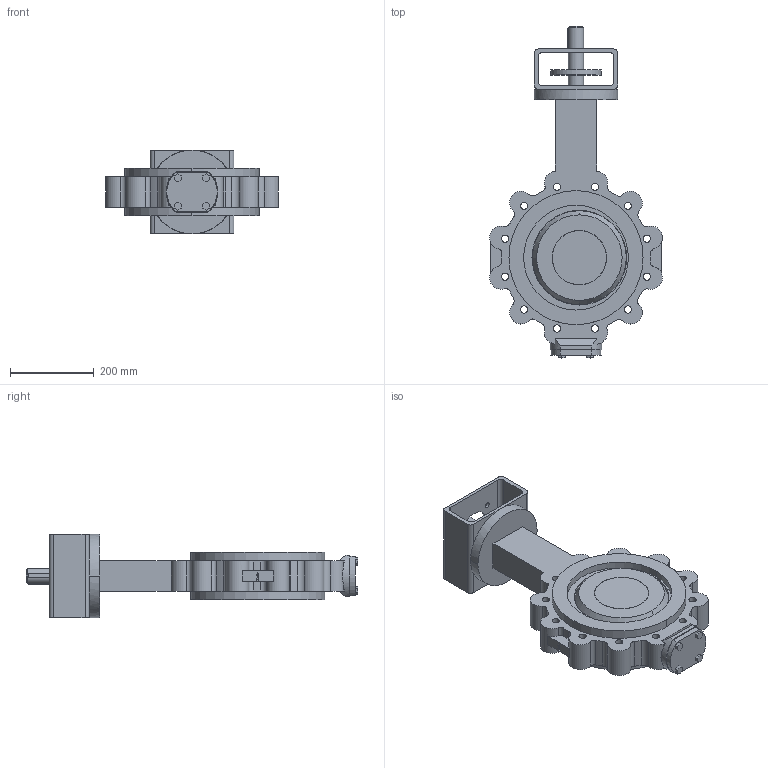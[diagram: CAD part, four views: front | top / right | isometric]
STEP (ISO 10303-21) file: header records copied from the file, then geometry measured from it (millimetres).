
FILE_DESCRIPTION( ( '' ), '1' );
FILE_NAME( 'F:/DE-SHS/TB/OR/04-Sonstiges/daten/files_3d/018_ZETRIX-PN10_freiesWellende/c000006350.stp', '2016-09-01T11:03:46', ( '' ), ( '' ), ' ', ' ', ' ' );
FILE_SCHEMA( ( 'CONFIG_CONTROL_DESIGN' ) );
Length unit declared in the file: millimetre
Products named in the file (1): 1
Bounding box: 412.36 x 792.4 x 200 mm (x, y, z)
Volume: 11968777.3 mm3; surface area: 916325.7 mm2
Topology: 1 solids, 1 shells, 271 faces, 740 edges, 492 vertices
Faces by surface type: cylinder 158, plane 105, sphere 4, cone 4
Entity records: 9590 total; most frequent: CARTESIAN_POINT 2304, DIRECTION 1596, ORIENTED_EDGE 1480, EDGE_CURVE 740, AXIS2_PLACEMENT_3D 616, VERTEX_POINT 492, LINE 364, VECTOR 364
